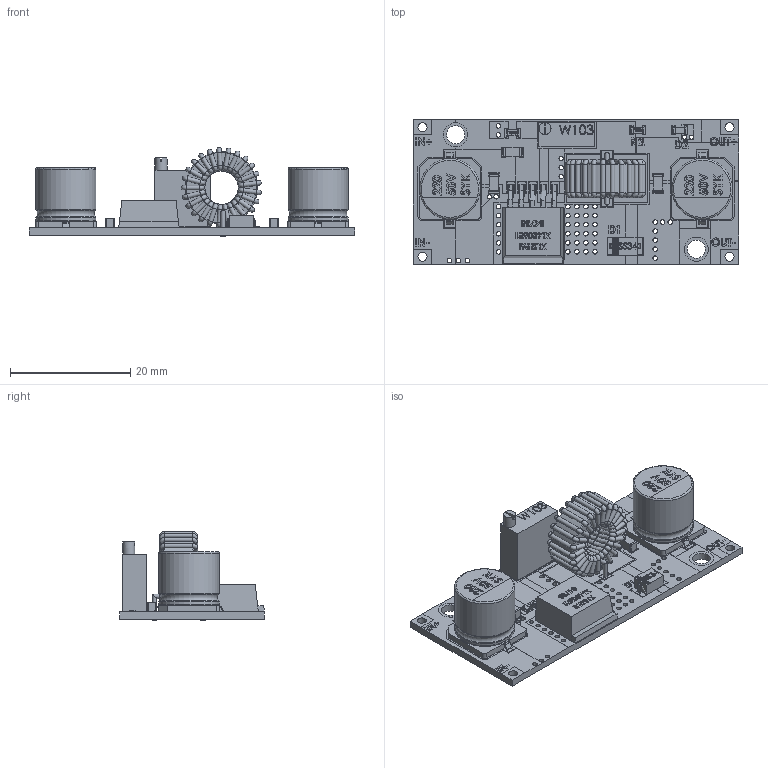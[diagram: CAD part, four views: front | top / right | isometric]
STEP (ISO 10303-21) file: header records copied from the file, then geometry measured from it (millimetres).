
FILE_DESCRIPTION(/* description */ (''),/* implementation_level */ '2;1');
FILE_NAME(/* name */ 'C:/Users/CDMX Electronica/Google Drive/Recursos de Página WEB/Imágenes y Recursos de productos/AR0083-XL4015 Regulador 5A/Modelo3D-AR0083/XL4015_MODELO_PISTAS.step',/* time_stamp */ '2019-12-17T12:24:10-06:00',/* author */ (''),/* organization */ (''),/* preprocessor_version */ 'ST-DEVELOPER v18',/* originating_system */ 'Autodesk Translation Framework v8.12.0.6',/* authorisation */ '');
FILE_SCHEMA (('AUTOMOTIVE_DESIGN { 1 0 10303 214 3 1 1 }'));
Length unit declared in the file: millimetre
Products named in the file (1): (Unsaved)
Bounding box: 54 x 24.01 x 14.75 mm (x, y, z)
Volume: 4491.3 mm3; surface area: 6170 mm2
Topology: 65 solids, 66 shells, 1876 faces, 5334 edges, 3615 vertices
Faces by surface type: plane 1115, cylinder 347, torus 234, bspline 177, cone 3
Full cylindrical faces by diameter (mm): 0.7 x4, 0.75 x51, 1.5 x4, 2 x1, 3 x2, 7 x1, 10 x4
Entity records: 91346 total; most frequent: CARTESIAN_POINT 41563, ORIENTED_EDGE 10607, DIRECTION 9090, EDGE_CURVE 5304, VERTEX_POINT 3612, AXIS2_PLACEMENT_3D 3092, LINE 2906, VECTOR 2906
